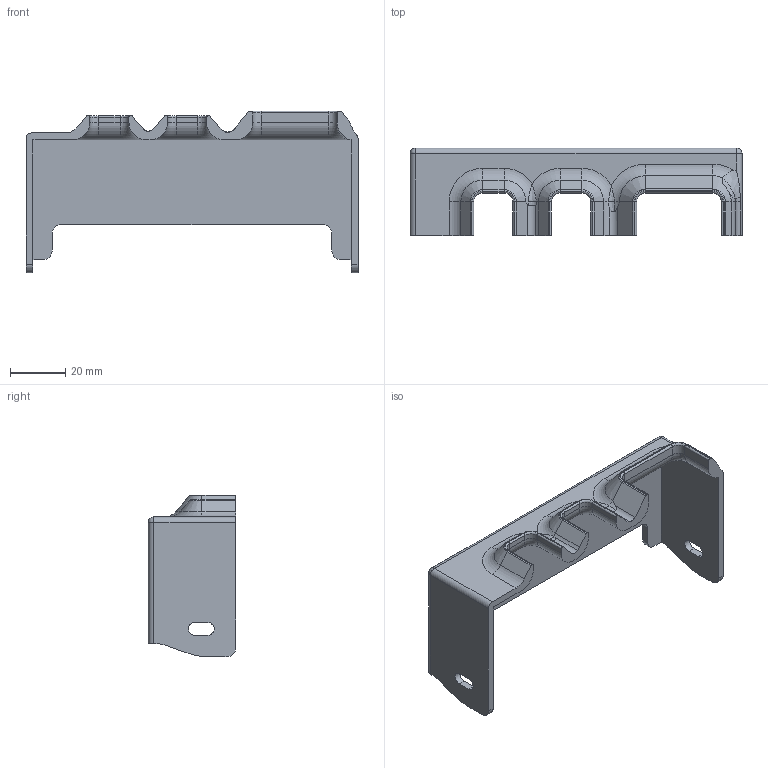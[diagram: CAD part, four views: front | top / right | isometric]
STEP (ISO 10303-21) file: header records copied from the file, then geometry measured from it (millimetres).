
FILE_DESCRIPTION (( 'STEP AP203' ), '1' );
FILE_NAME ('POWER SUPPLY COVER LRS-350-24 R1.STEP', '2020-01-06T20:09:43', ( '' ), ( '' ), 'SwSTEP 2.0', 'SolidWorks 2017', '' );
FILE_SCHEMA (( 'CONFIG_CONTROL_DESIGN' ));
Length unit declared in the file: inch
Products named in the file (1): POWER SUPPLY COVER LRS-350-24 R1
Bounding box: 120.58 x 31.8 x 58.74 mm (x, y, z)
Volume: 27508.4 mm3; surface area: 21498.8 mm2
Topology: 1 solids, 1 shells, 150 faces, 387 edges, 235 vertices
Faces by surface type: cylinder 62, plane 46, torus 25, bspline 9, cone 6, sphere 2
Entity records: 4962 total; most frequent: CARTESIAN_POINT 1205, DIRECTION 807, ORIENTED_EDGE 766, EDGE_CURVE 383, AXIS2_PLACEMENT_3D 306, VERTEX_POINT 235, LINE 195, VECTOR 195
